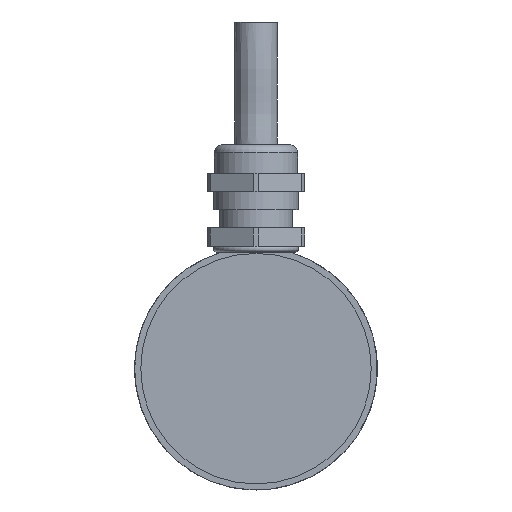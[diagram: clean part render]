
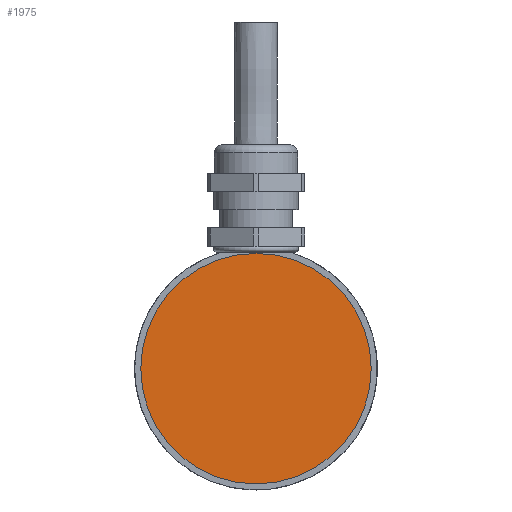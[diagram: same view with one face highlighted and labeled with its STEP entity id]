
A CAD part, left-side view. The second image highlights one B-rep face of the part: STEP entity #1975.
In plain terms, the highlighted planar face has unit normal (-1, 0, 0).
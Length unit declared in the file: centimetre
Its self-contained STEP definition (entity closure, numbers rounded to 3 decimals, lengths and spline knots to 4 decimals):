
#669=PLANE('',#2084);
#968=VERTEX_POINT('',#2913);
#1079=CIRCLE('',#2082,1.9);
#1177=EDGE_CURVE('',#968,#968,#1079,.T.);
#1409=ORIENTED_EDGE('',*,*,#1177,.T.);
#1753=EDGE_LOOP('',(#1409));
#1866=FACE_BOUND('',#1753,.T.);
#1975=ADVANCED_FACE('',(#1866),#669,.T.);
#2082=AXIS2_PLACEMENT_3D('',#2912,#3565,#3566);
#2084=AXIS2_PLACEMENT_3D('',#2916,#3569,$);
#2912=CARTESIAN_POINT('',(0.1,0.,0.));
#2913=CARTESIAN_POINT('',(0.1,0.,1.9));
#2916=CARTESIAN_POINT('',(0.1,0.,0.));
#3565=DIRECTION('',(-1.,0.,0.));
#3566=DIRECTION('',(0.,0.,1.9));
#3569=DIRECTION('',(-1.,0.,0.));
